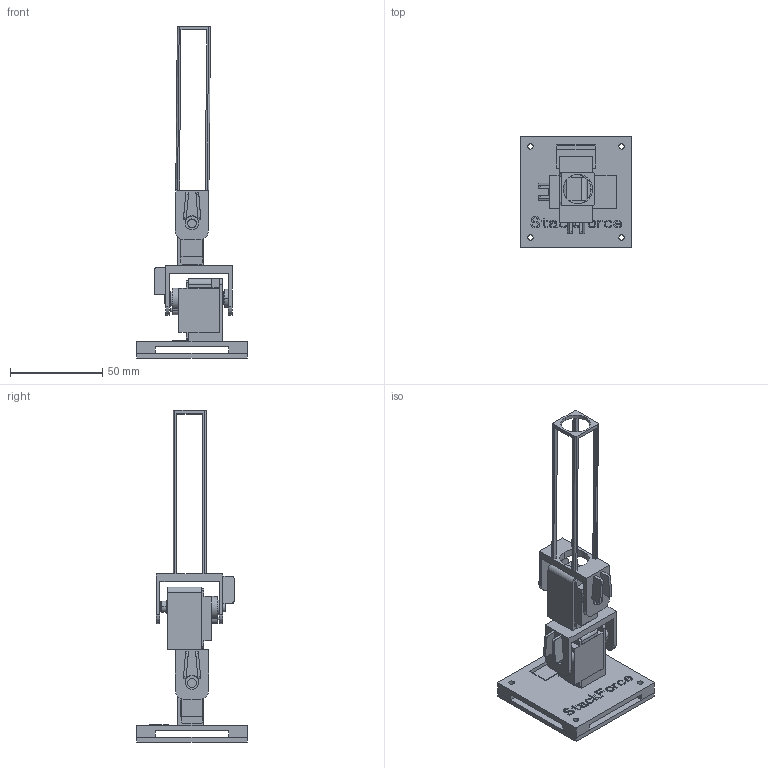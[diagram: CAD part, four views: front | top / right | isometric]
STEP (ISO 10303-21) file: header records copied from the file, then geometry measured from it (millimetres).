
FILE_DESCRIPTION((''),'2;1');
FILE_NAME('2DOF__ASM','2026-11-09T',('PC'),(''),'PRO/ENGINEER BY PARAMETRIC TECHNOLOGY CORPORATION, 2014320','PRO/ENGINEER BY PARAMETRIC TECHNOLOGY CORPORATION, 2014320','');
FILE_SCHEMA(('CONFIG_CONTROL_DESIGN'));
Length unit declared in the file: millimetre
Products named in the file (8): GDW_X2_8235673A_X0_; __X2_672A4FDD5B58_X0___2; _X2_5B9E4F53_X0_1; _X2_5B9E4F53_X0_2; __X2_672A4FDD5B58_X0___ASM; TOP; BOTTOM_GAP; 2DOF__ASM
Assembly tree (8 placements, depth 3):
  2DOF__ASM
    __X2_672A4FDD5B58_X0___ASM
      GDW_X2_8235673A_X0_  x2
      __X2_672A4FDD5B58_X0___2
      _X2_5B9E4F53_X0_1
      _X2_5B9E4F53_X0_2
    TOP
    BOTTOM_GAP
Bounding box: 60 x 60 x 180.18 mm (x, y, z)
Volume: 51099.5 mm3; surface area: 38458 mm2
Topology: 7 solids, 11 shells, 618 faces, 1707 edges, 1132 vertices
Faces by surface type: plane 512, cylinder 102, cone 4
Entity records: 18770 total; most frequent: CARTESIAN_POINT 3373, ORIENTED_EDGE 3242, DIRECTION 2996, EDGE_CURVE 1621, VECTOR 1424, LINE 1424, VERTEX_POINT 1075, AXIS2_PLACEMENT_3D 786
